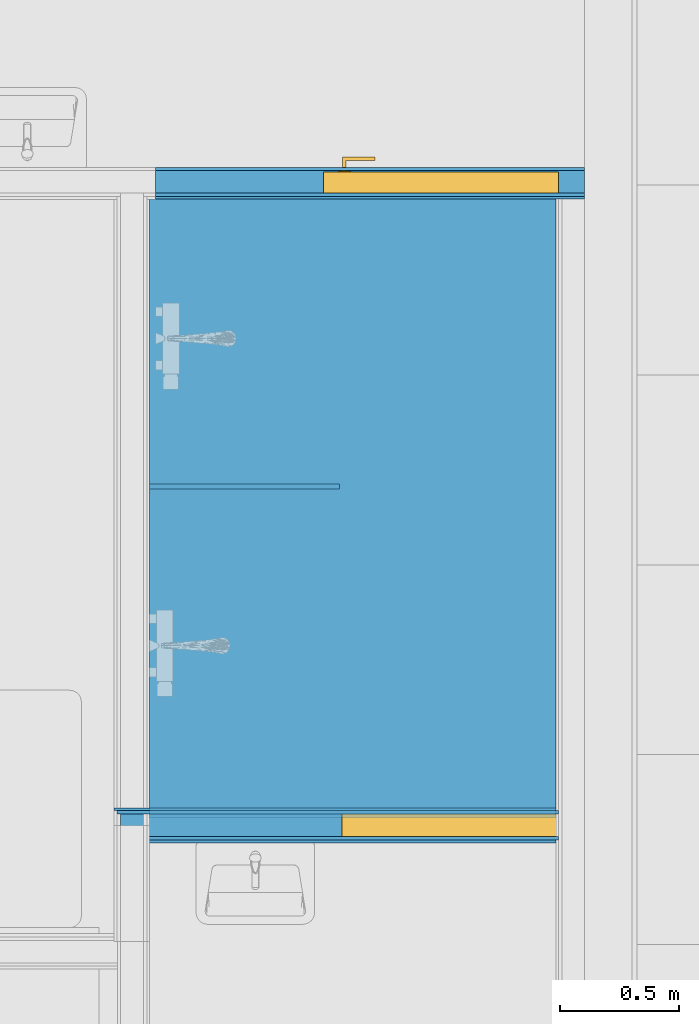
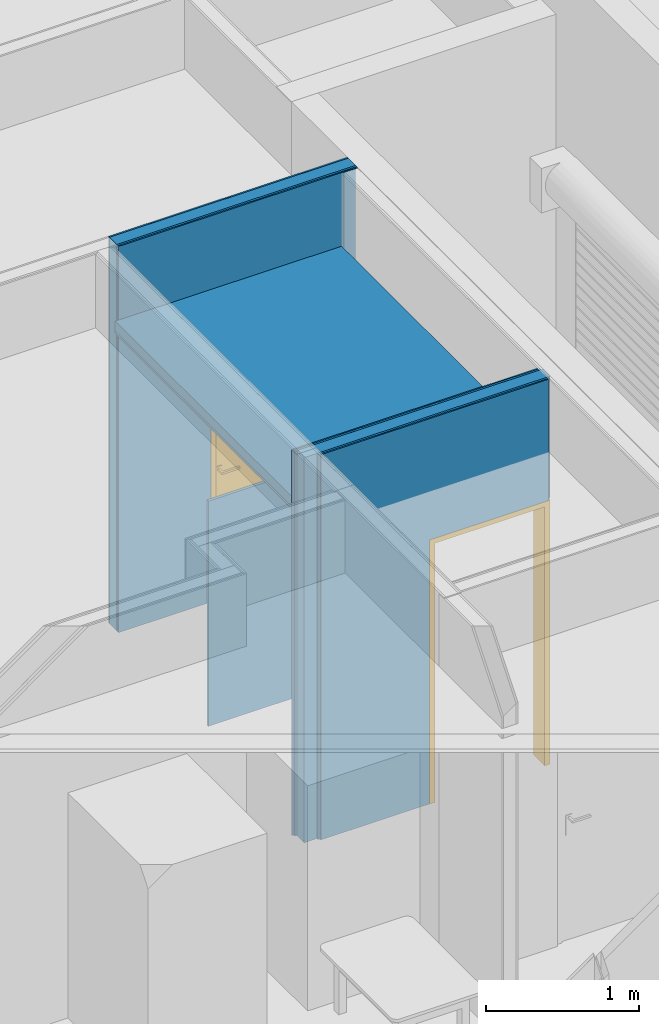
# One storey, part 7 of 67: 12 building element parts, 2 doors, 2 openings, 4 elements without a shape of their own.
"""IFC4 building model written with IfcOpenShell, lengths in millimetres."""

from ifc_helpers import new_model, entity, si_unit, converted_unit, direction, frame, origin, place, context, subcontext, project, spatial, indexed_curve, outline, extrude, polygons, source, transform, mapped, material, constituent, constituent_set, type_object, type_shapes, element, fill, aggregate, save


model = new_model("IFC4")

# Units and contexts
model_context = context("Model", 3, precision=0.01, world=origin(), true_north=direction((0.0, 1.0)))
body_context = subcontext(model_context, "Body", "Model", "MODEL_VIEW")
ifc_project = project(units=[si_unit("LENGTHUNIT", "METRE", prefix="MILLI"), si_unit("AREAUNIT", "SQUARE_METRE"), si_unit("VOLUMEUNIT", "CUBIC_METRE"), converted_unit("PLANEANGLEUNIT", "DEGREE", entity("IfcPlaneAngleMeasure", 0.017453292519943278), si_unit("PLANEANGLEUNIT", "RADIAN"), dimensions=[0, 0, 0, 0, 0, 0, 0])], contexts=[model_context])

# Site, building, storey
site_placement = place(None, origin())
site = spatial("IfcSite", under=ifc_project, at=site_placement, Name="Tomtens navn", CompositionType="ELEMENT")
building_placement = place(site_placement, origin())
building = spatial("IfcBuilding", under=site, at=building_placement, Name="Byggets navn", CompositionType="ELEMENT")
storey_placement = place(building_placement, origin())
storey = spatial("IfcBuildingStorey", under=building, at=storey_placement, Name="Level 01", CompositionType="ELEMENT", Elevation=2.1993652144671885e-25)

# Door
ifc_material_1 = material(Name="Rustfritt Stål", Category="Metal")
ifc_constituent_1 = constituent(ifc_material_1, Name="Rustfritt Stål", Category="Metal", fraction=0.0018055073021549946)
ifc_material_2 = material(Name="Hvit", Category="Paint")
ifc_constituent_2 = constituent(ifc_material_2, Name="Hvit", Category="Paint", fraction=0.998194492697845)
ifc_constituent_set_1 = constituent_set(constituents=[ifc_constituent_1, ifc_constituent_2])
ifc_constituent_3 = constituent(ifc_material_1, Name="Rustfritt Stål", Category="Metal", fraction=0.0009035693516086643)
ifc_constituent_4 = constituent(ifc_material_2, Name="Panel", Category="Paint", fraction=0.4995482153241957)
ifc_constituent_5 = constituent(ifc_material_2, Name="Frame/Mullion", Category="Paint", fraction=0.4995482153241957)
ifc_constituent_set_2 = constituent_set(constituents=[ifc_constituent_3, ifc_constituent_4, ifc_constituent_5])
door_type_1 = type_object("IfcDoorType", Name="Enfløyet:ID05 Komposittdør 10x21M", OperationType="SINGLE_SWING_RIGHT", PredefinedType="DOOR", material=ifc_constituent_set_2)
shared_shape_1 = source(origin(), body_context, "Body", "SweptSolid", [
    extrude(outline(indexed_curve([(-50.83333333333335, -33.33333333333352), (-35.83333333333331, -33.333333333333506), (-35.83333333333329, 9.166666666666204), (86.66666666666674, 9.166666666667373), (86.66666666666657, 24.16666666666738), (-50.8333333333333, 24.166666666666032), (-50.83333333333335, -33.33333333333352)], self_intersect=False)), frame((141.33333333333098, 152.94103942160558, 980.5000000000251)), (0.0, 0.0, 1.0), 14.999999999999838),
    extrude(outline(indexed_curve([(-24.999999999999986, -2.7999999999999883), (25.000000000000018, -2.8000000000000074), (24.999999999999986, 2.7999999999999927), (-24.99999999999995, 2.800000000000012), (-24.999999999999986, -2.7999999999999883)], self_intersect=False)), frame((98.0, 116.80000000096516, 850.9862950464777), z_axis=(0.0, 0.0, 1.0), x_axis=(-1.0, 0.0, 0.0)), (0.0, 0.0, 1.0), 159.01370495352),
    extrude(outline(indexed_curve([(-33.33333333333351, -50.83333333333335), (24.166666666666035, -50.83333333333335), (24.166666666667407, 86.66666666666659), (9.166666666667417, 86.6666666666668), (9.16666666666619, -35.83333333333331), (-33.33333333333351, -35.83333333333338), (-33.33333333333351, -50.83333333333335)], self_intersect=False)), frame((141.33333333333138, 35.058960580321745, 980.5000000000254), z_axis=(0.0, 0.0, 1.0), x_axis=(0.0, -1.0, 0.0)), (0.0, 0.0, 1.0), 14.999999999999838),
    extrude(outline(indexed_curve([(-2.8000000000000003, -25.00000000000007), (2.7999999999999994, -25.00000000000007), (2.800000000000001, 25.0), (-2.8000000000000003, 24.999999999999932), (-2.8000000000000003, -25.00000000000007)], self_intersect=False)), frame((98.0, 71.20000000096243, 850.9862950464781), z_axis=(0.0, 0.0, 1.0), x_axis=(0.0, 1.0, 0.0)), (0.0, 0.0, 1.0), 159.01370495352),
    extrude(outline(indexed_curve([(-20.0, -456.9999999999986), (20.0, -456.9999999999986), (20.0, 456.9999999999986), (-20.0, 456.9999999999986), (-20.0, -456.9999999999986)], self_intersect=False)), frame((505.0, 94.0, 10.0), z_axis=(0.0, 0.0, 1.0), x_axis=(0.0, 1.0, 0.0)), (0.0, 0.0, 1.0), 2042.0),
    extrude(outline(indexed_curve([(-1035.4999999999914, -494.9999999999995), (1054.4999999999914, -494.99999999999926), (1054.4999999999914, 494.99999999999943), (-1035.4999999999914, 494.99999999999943), (-1035.4999999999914, 456.99999999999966), (1016.4999999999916, 456.9999999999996), (1016.4999999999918, -456.9999999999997), (-1035.4999999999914, -456.99999999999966), (-1035.4999999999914, -494.9999999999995)], self_intersect=False)), frame((505.0, 14.0, 1035.4999999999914), z_axis=(0.0, 1.0, 0.0), x_axis=(0.0, 0.0, 1.0)), (0.0, 0.0, 1.0), 99.99999999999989),
])
type_shapes(door_type_1, [shared_shape_1])
wall_1_placement = place(storey_placement, frame((66622.85352810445, 15672.966456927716, 0.0), z_axis=(0.0, 0.0, 1.0), x_axis=(-1.0, 0.0, 0.0)))
opening_1_placement = place(wall_1_placement, frame((1110.0, 67.0, 0.0)))
door_1_placement = place(opening_1_placement, frame((0.0, 0.0, 0.0), z_axis=(0.0, 0.0, 1.0), x_axis=(-1.0, 0.0, 0.0)))
door_1 = element("IfcDoor", 1, at=door_1_placement, inside=storey, type_object=door_type_1, material=ifc_constituent_set_1, Name="Enfløyet:ID05 Komposittdør 10x21M", OverallHeight=2110.000000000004, OverallWidth=1009.9999999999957, PredefinedType="DOOR", context=body_context, shape_type="MappedRepresentation", body=[
    mapped(shared_shape_1, transform((0.0, 0.0, 0.0), scale=1.0)),
])

ifc_material_3 = material(Name="<Unnamed>")
door_type_2 = type_object("IfcDoorType", Name="M_Door_ID_Cased-Opening:910 x 2110mm", OperationType="NOTDEFINED", PredefinedType="DOOR", material=ifc_material_3)
shared_shape_2 = source(origin(), body_context, "Body", "Tessellation", [
    polygons([(869.9999999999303, 1.0151879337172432e-13, 0.0), (869.9999999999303, 147.00000000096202, 0.0), (910.0000000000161, 147.00000000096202, 0.0), (910.0000000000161, 1.0151879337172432e-13, 0.0), (910.0000000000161, 1.0151879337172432e-13, 2109.999999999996), (869.9999999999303, 1.0151879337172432e-13, 2069.9999999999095), (910.0000000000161, 147.00000000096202, 2109.999999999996), (869.9999999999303, 147.00000000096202, 2069.9999999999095), (6.497202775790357e-12, 1.0151879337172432e-13, 2109.999999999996), (40.00000000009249, 1.0151879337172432e-13, 2069.99999999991), (6.497202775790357e-12, 147.00000000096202, 2109.999999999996), (40.00000000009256, 147.00000000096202, 2069.99999999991), (40.00000000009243, 1.0151879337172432e-13, 0.0), (6.497202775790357e-12, 1.0151879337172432e-13, 0.0), (6.497202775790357e-12, 147.00000000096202, 0.0), (40.00000000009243, 147.00000000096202, 0.0)], [[[1, 2, 3, 4]], [[4, 5, 6, 1]], [[3, 7, 5, 4]], [[2, 8, 7, 3]], [[1, 6, 8, 2]], [[5, 9, 10, 6]], [[7, 11, 9, 5]], [[8, 12, 11, 7]], [[6, 10, 12, 8]], [[13, 14, 15, 16]], [[9, 14, 13, 10]], [[11, 15, 14, 9]], [[12, 16, 15, 11]], [[10, 13, 16, 12]]], closed=True),
])
type_shapes(door_type_2, [shared_shape_2])
wall_2_placement = place(storey_placement, frame((64640.85352810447, 12968.045603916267, 0.0)))
opening_2_placement = place(wall_2_placement, frame((1871.0, 73.50000000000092, 0.0)))
door_2_placement = place(opening_2_placement, frame((0.0, 0.0, 0.0), z_axis=(0.0, 0.0, 1.0), x_axis=(-1.0, 0.0, 0.0)))
door_2 = element("IfcDoor", 2, at=door_2_placement, inside=storey, type_object=door_type_2, material=ifc_material_3, Name="M_Door_ID_Cased-Opening:910 x 2110mm", OverallHeight=2109.9999999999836, OverallWidth=910.000000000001, PredefinedType="DOOR", context=body_context, shape_type="MappedRepresentation", body=[
    mapped(shared_shape_2, transform((0.0, 0.0, 0.0), scale=1.0)),
])

# Wall, opening
wall_type_1 = type_object("IfcWallType", Name="Basic Wall:IV07 Gips 95 stålstender +15mm kryssfiner+baderomsplater", PredefinedType="STANDARD")
wall_1 = element("IfcWall", 3, at=wall_1_placement, inside=storey, type_object=wall_type_1, Name="Basic Wall:IV07 Gips 95 stålstender +15mm kryssfiner+baderomsplater", PredefinedType="NOTDEFINED")
opening_1 = element("IfcOpeningElement", 4, at=opening_1_placement, cuts=wall_1, Name="Enfløyet:ID05 Komposittdør 10x21M:1", PredefinedType="OPENING", context=body_context, shape_type="SweptSolid", body=[
    extrude(outline(indexed_curve([(0.0, 1009.9999999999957), (0.0, 2.3165105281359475e-29), (2110.000000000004, 2.3165105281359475e-29), (2110.000000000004, 1009.9999999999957), (0.0, 1009.9999999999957)], self_intersect=False)), frame((0.0, 0.0, 0.0), z_axis=(0.0, -1.0, 0.0), x_axis=(0.0, 0.0, 1.0)), (0.0, 0.0, 1.0), 134.0),
])

fill(opening_1, door_1)

# Building element part
ifc_material_4 = material(Name="NO_Kryssfiner", Category="Tre")
building_element_part_1_placement = place(wall_1_placement, frame((1807.4999999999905, 56.0, 0.0)))
building_element_part_1 = element("IfcBuildingElementPart", 5, at=building_element_part_1_placement, material=ifc_material_4, Name="NO_Kryssfiner", context=body_context, shape_type="Tessellation", body=[
    polygons([(4.900248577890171e-12, 1.8189894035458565e-12, 7.331217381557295e-26), (-697.5000000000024, 1.8189894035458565e-12, 7.331217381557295e-26), (-697.5000000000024, 1.8189894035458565e-12, 2110.000000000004), (-1707.5000000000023, 3.637978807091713e-12, 2110.000000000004), (-1707.5000000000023, 3.637978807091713e-12, 7.331217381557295e-26), (-1712.5000000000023, 3.637978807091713e-12, 7.331217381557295e-26), (-1712.5000000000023, 3.637978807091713e-12, 3081.346137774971), (-1807.4999999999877, 3.637978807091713e-12, 3081.346137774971), (-1807.4999999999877, 3.637978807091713e-12, 3087.999999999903), (4.900248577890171e-12, 1.8189894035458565e-12, 3087.999999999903), (-1707.5000000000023, -15.0, 7.331217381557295e-26), (-1712.5000000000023, -15.0, 7.331217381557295e-26), (4.897966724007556e-12, -15.000000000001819, 3087.999999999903), (4.897966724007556e-12, -15.000000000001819, 7.331217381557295e-26), (-1807.4999999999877, -15.0, 3087.999999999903), (-1707.5000000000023, -15.0, 2110.000000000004), (-697.5000000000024, -15.000000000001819, 2110.000000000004), (-697.5000000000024, -15.000000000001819, 7.331217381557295e-26), (-1807.4999999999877, -15.0, 3081.346137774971), (-1712.5000000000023, -15.0, 3081.346137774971)], [[[1, 2, 3, 4, 5, 6, 7, 8, 9, 10]], [[5, 11, 12, 6]], [[1, 10, 13, 14]], [[10, 9, 15, 13]], [[5, 4, 16, 11]], [[4, 3, 17, 16]], [[3, 2, 18, 17]], [[15, 9, 8, 19]], [[2, 1, 14, 18]], [[14, 13, 15, 19, 20, 12, 11, 16, 17, 18]], [[7, 20, 19, 8]], [[20, 7, 6, 12]]], closed=True),
])

ifc_material_5 = material(Name="Stender", Category="Unassigned")
building_element_part_2_placement = place(wall_1_placement, frame((1807.4999999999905, 41.0, 0.0)))
building_element_part_2 = element("IfcBuildingElementPart", 6, at=building_element_part_2_placement, material=ifc_material_5, Name="Stender", context=body_context, shape_type="Tessellation", body=[
    polygons([(-697.5000000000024, -95.00000000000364, 7.331217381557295e-26), (4.883514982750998e-12, -95.00000000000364, 7.331217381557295e-26), (4.883514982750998e-12, -95.00000000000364, 3087.999999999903), (-1807.499999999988, -95.00000000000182, 3087.999999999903), (-1807.499999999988, -95.00000000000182, 7.331217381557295e-26), (-1707.5000000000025, -95.00000000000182, 7.331217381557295e-26), (-1707.5000000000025, -95.00000000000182, 2110.000000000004), (-697.5000000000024, -95.00000000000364, 2110.000000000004), (-1807.4999999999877, 0.0, 7.331217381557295e-26), (-1707.5000000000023, 0.0, 7.331217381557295e-26), (4.897966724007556e-12, -1.8189894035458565e-12, 7.331217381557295e-26), (4.897966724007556e-12, -1.8189894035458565e-12, 3087.999999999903), (-1807.4999999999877, 0.0, 3087.999999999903), (-1707.5000000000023, 0.0, 2110.000000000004), (-697.5000000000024, -1.8189894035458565e-12, 2110.000000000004), (-697.5000000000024, -1.8189894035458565e-12, 7.331217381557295e-26)], [[[1, 2, 3, 4, 5, 6, 7, 8]], [[5, 9, 10, 6]], [[2, 11, 12, 3]], [[3, 12, 13, 4]], [[6, 10, 14, 7]], [[7, 14, 15, 8]], [[16, 1, 8, 15]], [[9, 5, 4, 13]], [[1, 16, 11, 2]], [[11, 16, 15, 14, 10, 9, 13, 12]]], closed=True),
])

ifc_material_6 = material(Name="Gipsplater", Category="NOR ^ Gips")
building_element_part_3_placement = place(wall_1_placement, frame((1807.4999999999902, -54.0, 0.0)))
building_element_part_3 = element("IfcBuildingElementPart", 7, at=building_element_part_3_placement, material=ifc_material_6, Name="Gipsplater", context=body_context, shape_type="Tessellation", body=[
    polygons([(4.883514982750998e-12, -3.637978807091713e-12, 7.331217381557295e-26), (-697.5000000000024, -3.637978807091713e-12, 7.331217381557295e-26), (-697.5000000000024, -3.637978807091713e-12, 2110.000000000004), (-1707.5000000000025, -1.8189894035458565e-12, 2110.000000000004), (-1707.5000000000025, -1.8189894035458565e-12, 7.331217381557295e-26), (-1807.499999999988, -1.8189894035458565e-12, 7.331217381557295e-26), (-1807.499999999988, -1.8189894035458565e-12, 3087.999999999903), (4.883514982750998e-12, -3.637978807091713e-12, 3087.999999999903), (-1707.5000000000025, -13.0, 2.1993652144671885e-25), (-1807.499999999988, -13.0, 2.1993652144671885e-25), (4.881537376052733e-12, -13.000000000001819, 3087.999999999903), (4.881537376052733e-12, -13.000000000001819, 2.1993652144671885e-25), (-1807.499999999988, -13.0, 3087.999999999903), (-1707.5000000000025, -13.0, 2110.000000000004), (-697.5000000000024, -13.000000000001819, 2110.000000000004), (-697.5000000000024, -13.000000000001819, 2.1993652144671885e-25)], [[[1, 2, 3, 4, 5, 6, 7, 8]], [[9, 10, 6, 5]], [[11, 12, 1, 8]], [[13, 11, 8, 7]], [[14, 9, 5, 4]], [[15, 14, 4, 3]], [[16, 15, 3, 2]], [[10, 13, 7, 6]], [[12, 16, 2, 1]], [[12, 11, 13, 10, 9, 14, 15, 16]]], closed=True),
])

ifc_material_7 = material(Name="NO_Baderomsplater", Category="Tre")
building_element_part_4_placement = place(wall_1_placement, frame((1807.4999999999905, 67.0, 0.0)))
building_element_part_4 = element("IfcBuildingElementPart", 8, at=building_element_part_4_placement, material=ifc_material_7, Name="NO_Baderomsplater", context=body_context, shape_type="Tessellation", body=[
    polygons([(-697.5000000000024, -10.999999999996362, 7.331217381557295e-26), (4.900248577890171e-12, -10.999999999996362, 7.331217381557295e-26), (4.900248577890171e-12, -10.999999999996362, 3087.999999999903), (-1807.4999999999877, -10.999999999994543, 3087.999999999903), (-1807.4999999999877, -10.999999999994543, 3081.346137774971), (-1697.5000000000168, -10.999999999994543, 3081.346137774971), (-1697.5000000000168, -10.999999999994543, 2110.000000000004), (-697.5000000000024, -10.999999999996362, 2110.000000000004), (4.901921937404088e-12, 0.0, 3087.999999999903), (4.901921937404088e-12, 0.0, 2.1993652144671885e-25), (-697.5000000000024, 0.0, 2.1993652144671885e-25), (-697.5000000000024, 0.0, 2110.000000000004), (-1697.5000000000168, 1.8189894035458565e-12, 2110.000000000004), (-1697.5000000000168, 1.8189894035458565e-12, 3081.346137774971), (-1807.4999999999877, 1.8189894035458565e-12, 3081.346137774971), (-1807.4999999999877, 1.8189894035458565e-12, 3087.999999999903)], [[[1, 2, 3, 4, 5, 6, 7, 8]], [[9, 10, 11, 12, 13, 14, 15, 16]], [[3, 2, 10, 9]], [[4, 3, 9, 16]], [[12, 8, 7, 13]], [[1, 8, 12, 11]], [[16, 15, 5, 4]], [[2, 1, 11, 10]], [[6, 14, 13, 7]], [[14, 6, 5, 15]]], closed=True),
])

aggregate(wall_1, [building_element_part_1, building_element_part_2, building_element_part_3, building_element_part_4])

# Space
space_placement = place(storey_placement, origin())
space = spatial("IfcSpace", under=storey, at=space_placement, CompositionType="ELEMENT", PredefinedType="NOTDEFINED")

# Covering, building element parts
covering_type = type_object("IfcCoveringType", Name="Compound Ceiling:H02 257_Systemhimling 600x600, hygiene", PredefinedType="CEILING")
covering_placement = place(space_placement, origin())
covering = element("IfcCovering", 9, at=covering_placement, inside=space, type_object=covering_type, Name="Compound Ceiling:H02 257_Systemhimling 600x600, hygiene", PredefinedType="CEILING")
ifc_material_8 = material(Name="NO_Himling (type ikke bestemt)", Category="Diverse")
building_element_part_5_placement = place(covering_placement, origin())
building_element_part_5 = element("IfcBuildingElementPart", 10, at=building_element_part_5_placement, material=ifc_material_8, Name="NO_Himling (type ikke bestemt)", context=body_context, shape_type="SweptSolid", body=[
    extrude(outline(indexed_curve([(-1303.8750000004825, -856.000000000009), (1303.8750000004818, -856.000000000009), (1303.8750000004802, 856.000000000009), (-1303.875000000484, 856.000000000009), (-1303.8750000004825, -856.000000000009)], self_intersect=False)), frame((65645.85352810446, 14302.091456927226, 2420.0), z_axis=(0.0, 0.0, 1.0), x_axis=(0.0, -1.0, 0.0)), (0.0, 0.0, 1.0), 79.99999999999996),
])
ifc_material_9 = material(Name="NO_Himling 600x600 hygiene", Category="Diverse")
building_element_part_6_placement = place(covering_placement, origin())
building_element_part_6 = element("IfcBuildingElementPart", 11, at=building_element_part_6_placement, material=ifc_material_9, Name="NO_Himling 600x600 hygiene", context=body_context, shape_type="SweptSolid", body=[
    extrude(outline(indexed_curve([(-1303.8750000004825, -856.000000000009), (1303.8750000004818, -856.000000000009), (1303.8750000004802, 856.000000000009), (-1303.875000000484, 856.000000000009), (-1303.8750000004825, -856.000000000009)], self_intersect=False)), frame((65645.85352810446, 14302.091456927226, 2400.0), z_axis=(0.0, 0.0, 1.0), x_axis=(0.0, -1.0, 0.0)), (0.0, 0.0, 1.0), 20.000000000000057),
])
aggregate(covering, [building_element_part_5, building_element_part_6])

# Wall, opening
wall_type_2 = type_object("IfcWallType", Name="Basic Wall:IV09 Badromsplate+15mm kryssf+ 95 stålstender +15mm kryssfiner+baderomsplater 2", PredefinedType="STANDARD")
wall_2 = element("IfcWall", 12, at=wall_2_placement, inside=storey, type_object=wall_type_2, Name="Basic Wall:IV09 Badromsplate+15mm kryssf+ 95 stålstender +15mm kryssfiner+baderomsplater 2", PredefinedType="NOTDEFINED")
opening_2 = element("IfcOpeningElement", 13, at=opening_2_placement, cuts=wall_2, Name="M_Door_ID_Cased-Opening:910 x 2110mm:1", PredefinedType="OPENING", context=body_context, shape_type="SweptSolid", body=[
    extrude(outline(indexed_curve([(0.0, 1.0828671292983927e-12), (2109.9999999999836, 1.0828671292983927e-12), (2109.9999999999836, 910.000000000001), (0.0, 910.000000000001), (0.0, 1.0828671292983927e-12)], self_intersect=False)), frame((0.0, 0.0, 0.0), z_axis=(0.0, -1.0, 0.0), x_axis=(0.0, 0.0, 1.0)), (0.0, 0.0, 1.0), 147.00000000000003),
])

fill(opening_2, door_2)

# Building element part
building_element_part_7_placement = place(wall_2_placement, frame((13.0, 47.49999999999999, 0.0)))
building_element_part_7 = element("IfcBuildingElementPart", 14, at=building_element_part_7_placement, material=ifc_material_4, Name="NO_Kryssfiner", context=body_context, shape_type="Tessellation", body=[
    polygons([(947.9999999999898, 15.000000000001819, 7.331217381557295e-26), (-2.9478393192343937e-12, 15.000000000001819, 7.331217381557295e-26), (-2.9478393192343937e-12, 15.000000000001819, 3079.9999999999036), (1858.9999999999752, 15.000000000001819, 3079.9999999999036), (1858.9999999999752, 15.000000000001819, 2109.9999999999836), (947.9999999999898, 15.000000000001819, 2109.9999999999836), (-2.9528215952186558e-12, 3.637978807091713e-12, 7.331217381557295e-26), (947.9999999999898, 3.637978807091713e-12, 7.331217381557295e-26), (947.9999999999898, 3.637978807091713e-12, 2109.9999999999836), (1858.9999999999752, 3.637978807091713e-12, 2109.9999999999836), (1858.9999999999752, 3.637978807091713e-12, 3079.9999999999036), (-2.9528215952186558e-12, 3.637978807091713e-12, 3079.9999999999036)], [[[1, 2, 3, 4, 5, 6]], [[7, 8, 9, 10, 11, 12]], [[7, 2, 1, 8]], [[11, 4, 3, 12]], [[9, 6, 5, 10]], [[8, 1, 6, 9]], [[4, 11, 10, 5]], [[2, 7, 12, 3]]], closed=True),
])

building_element_part_8_placement = place(wall_2_placement, frame((0.0, 62.500000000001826, 0.0)))
building_element_part_8 = element("IfcBuildingElementPart", 15, at=building_element_part_8_placement, material=ifc_material_7, Name="NO_Baderomsplater", context=body_context, shape_type="Tessellation", body=[
    polygons([(-1.022379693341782e-11, 0.0, 7.331217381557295e-26), (960.9999999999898, 0.0, 7.331217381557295e-26), (960.9999999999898, 0.0, 2109.9999999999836), (1860.9999999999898, 0.0, 2109.9999999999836), (1860.9999999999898, 0.0, 3079.9999999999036), (-1.022379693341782e-11, 0.0, 3079.9999999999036), (149.00000000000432, 11.0, 2.1993652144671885e-25), (960.9999999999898, 11.0, 2.1993652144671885e-25), (-1.0220143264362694e-11, 11.0, 2.1993652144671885e-25), (149.00000000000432, 11.0, 3079.9999999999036), (-1.0220143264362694e-11, 11.0, 3079.9999999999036), (1860.9999999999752, 11.0, 3079.9999999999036), (960.9999999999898, 11.0, 2109.9999999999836), (1860.9999999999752, 11.0, 2109.9999999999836)], [[[1, 2, 3, 4, 5, 6]], [[7, 8, 2, 1, 9]], [[10, 11, 6, 5, 12]], [[13, 14, 4, 3]], [[8, 13, 3, 2]], [[11, 9, 1, 6]], [[14, 12, 5, 4]], [[11, 10, 12, 14, 13, 8, 7, 9]]], closed=True),
])

building_element_part_9_placement = place(wall_2_placement, frame((123.0, -62.50000000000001, 0.0)))
building_element_part_9 = element("IfcBuildingElementPart", 16, at=building_element_part_9_placement, material=ifc_material_4, Name="NO_Kryssfiner", context=body_context, shape_type="Tessellation", body=[
    polygons([(-2.9893582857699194e-12, 0.0, 7.331217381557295e-26), (837.9999999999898, 0.0, 7.331217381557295e-26), (837.9999999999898, 0.0, 2109.9999999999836), (1748.9999999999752, 0.0, 2109.9999999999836), (1748.9999999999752, 0.0, 3079.9999999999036), (-2.9893582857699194e-12, 0.0, 3079.9999999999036), (837.9999999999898, 15.0, 7.331217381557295e-26), (-2.9843760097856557e-12, 15.0, 7.331217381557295e-26), (-2.9843760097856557e-12, 15.0, 3079.9999999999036), (1748.9999999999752, 15.0, 3079.9999999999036), (1748.9999999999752, 15.0, 2109.9999999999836), (837.9999999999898, 15.0, 2109.9999999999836)], [[[1, 2, 3, 4, 5, 6]], [[7, 8, 9, 10, 11, 12]], [[1, 8, 7, 2]], [[5, 10, 9, 6]], [[3, 12, 11, 4]], [[2, 7, 12, 3]], [[10, 5, 4, 11]], [[8, 1, 6, 9]]], closed=True),
])

building_element_part_10_placement = place(wall_2_placement, frame((138.0, -73.49999999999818, 0.0)))
building_element_part_10 = element("IfcBuildingElementPart", 17, at=building_element_part_10_placement, material=ifc_material_7, Name="NO_Baderomsplater", context=body_context, shape_type="Tessellation", body=[
    polygons([(822.9999999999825, 10.999999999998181, 7.331217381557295e-26), (-1.7541273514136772e-11, 10.999999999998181, 7.331217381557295e-26), (-1.7541273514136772e-11, 10.999999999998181, 3079.9999999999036), (1722.999999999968, 10.999999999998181, 3079.9999999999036), (1722.999999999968, 10.999999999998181, 2109.9999999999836), (822.9999999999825, 10.999999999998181, 2109.9999999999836), (10.99999999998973, 0.0, 2.1993652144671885e-25), (-1.7544927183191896e-11, 0.0, 2.1993652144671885e-25), (822.9999999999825, 0.0, 2.1993652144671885e-25), (10.99999999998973, 0.0, 3079.9999999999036), (1722.999999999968, 0.0, 3079.9999999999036), (-1.7544927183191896e-11, 0.0, 3079.9999999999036), (1722.999999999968, 0.0, 2109.9999999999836), (822.9999999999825, 0.0, 2109.9999999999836)], [[[1, 2, 3, 4, 5, 6]], [[7, 8, 2, 1, 9]], [[10, 11, 4, 3, 12]], [[13, 14, 6, 5]], [[14, 9, 1, 6]], [[11, 13, 5, 4]], [[11, 10, 12, 8, 7, 9, 14, 13]], [[8, 12, 3, 2]]], closed=True),
])

building_element_part_11_placement = place(wall_2_placement, frame((28.0, -47.49999999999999, 0.0)))
building_element_part_11 = element("IfcBuildingElementPart", 18, at=building_element_part_11_placement, material=ifc_material_5, Name="Stender", context=body_context, shape_type="Tessellation", body=[
    polygons([(932.9999999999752, 95.00000000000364, 7.331217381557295e-26), (-1.750473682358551e-11, 95.00000000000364, 7.331217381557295e-26), (-1.750473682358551e-11, 95.00000000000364, 3079.9999999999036), (1858.9999999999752, 95.00000000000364, 3079.9999999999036), (1858.9999999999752, 95.00000000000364, 2109.9999999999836), (932.9999999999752, 95.00000000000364, 2109.9999999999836), (-1.7536291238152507e-11, 0.0, 7.331217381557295e-26), (932.9999999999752, 0.0, 7.331217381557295e-26), (932.9999999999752, 0.0, 2109.9999999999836), (1858.9999999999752, 0.0, 2109.9999999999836), (1858.9999999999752, 0.0, 3079.9999999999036), (-1.7536291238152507e-11, 0.0, 3079.9999999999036)], [[[1, 2, 3, 4, 5, 6]], [[7, 8, 9, 10, 11, 12]], [[7, 2, 1, 8]], [[11, 4, 3, 12]], [[9, 6, 5, 10]], [[8, 1, 6, 9]], [[4, 11, 10, 5]], [[2, 7, 12, 3]]], closed=True),
])

aggregate(wall_2, [building_element_part_7, building_element_part_8, building_element_part_9, building_element_part_10, building_element_part_11])

# Wall, building element part
wall_type_3 = type_object("IfcWallType", Name="Basic Wall:IV23 Dusjvegg", PredefinedType="STANDARD")
wall_3_placement = place(storey_placement, frame((64789.85352810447, 14395.966456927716, 0.0)))
wall_3 = element("IfcWall", 19, at=wall_3_placement, inside=storey, type_object=wall_type_3, Name="Basic Wall:IV23 Dusjvegg", PredefinedType="NOTDEFINED")
building_element_part_12_placement = place(wall_3_placement, origin())
building_element_part_12 = element("IfcBuildingElementPart", 20, at=building_element_part_12_placement, material=ifc_material_7, Name="NO_Baderomsplater", context=body_context, shape_type="SweptSolid", body=[
    extrude(outline(indexed_curve([(-9.999999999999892, -400.000000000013), (9.999999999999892, -400.000000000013), (9.999999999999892, 399.9999999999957), (-9.999999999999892, 399.9999999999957), (-9.999999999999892, -400.000000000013)], self_intersect=False)), frame((400.0, 0.0, 0.0), z_axis=(0.0, 0.0, 1.0), x_axis=(0.0, -1.0, 0.0)), (0.0, 0.0, 1.0), 1800.0000000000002),
])
aggregate(wall_3, [building_element_part_12])

save(model, "model.ifc")
